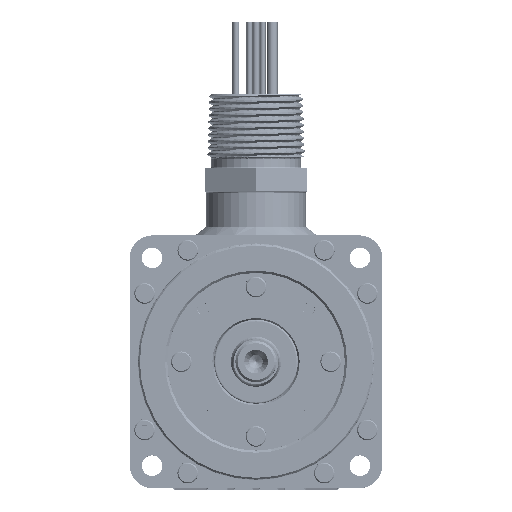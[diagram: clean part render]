
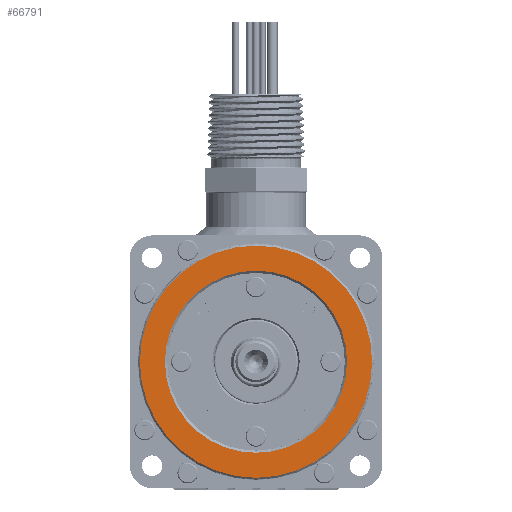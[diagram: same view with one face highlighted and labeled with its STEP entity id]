
A CAD part, top view. The second image highlights one B-rep face of the part: STEP entity #66791.
In plain terms, the highlighted planar face has unit normal (0, 0, 1).
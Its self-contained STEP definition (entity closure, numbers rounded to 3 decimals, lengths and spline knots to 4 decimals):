
#3932 = VERTEX_POINT ( 'NONE', #134331 ) ;
#17612 = ORIENTED_EDGE ( 'NONE', *, *, #156760, .T. ) ;
#19246 = EDGE_LOOP ( 'NONE', ( #189050, #126824 ) ) ;
#20735 = DIRECTION ( 'NONE',  ( 1., 0., 0. ) ) ;
#23095 = CARTESIAN_POINT ( 'NONE',  ( 0., 0., -1.063 ) ) ;
#27422 = CARTESIAN_POINT ( 'NONE',  ( -1.5548, 0., -1.063 ) ) ;
#27563 = FACE_BOUND ( 'NONE', #19246, .T. ) ;
#31839 = AXIS2_PLACEMENT_3D ( 'NONE', #121688, #153735, #134750 ) ;
#36210 = VERTEX_POINT ( 'NONE', #48230 ) ;
#36219 = AXIS2_PLACEMENT_3D ( 'NONE', #197722, #139544, #180691 ) ;
#45549 = FACE_OUTER_BOUND ( 'NONE', #63999, .T. ) ;
#47669 = VERTEX_POINT ( 'NONE', #27422 ) ;
#48230 = CARTESIAN_POINT ( 'NONE',  ( 1.5548, 0., -1.063 ) ) ;
#63508 = EDGE_CURVE ( 'NONE', #36210, #47669, #95070, .T. ) ;
#63999 = EDGE_LOOP ( 'NONE', ( #17612, #133595 ) ) ;
#66791 = ADVANCED_FACE ( 'NONE', ( #45549, #27563 ), #88663, .T. ) ;
#71205 = AXIS2_PLACEMENT_3D ( 'NONE', #83810, #192053, #20735 ) ;
#75938 = EDGE_CURVE ( 'NONE', #101802, #3932, #122585, .T. ) ;
#83810 = CARTESIAN_POINT ( 'NONE',  ( 0., 0., -1.063 ) ) ;
#87296 = DIRECTION ( 'NONE',  ( 0., 0., 1. ) ) ;
#88663 = PLANE ( 'NONE',  #31839 ) ;
#95070 = CIRCLE ( 'NONE', #175458, 1.5548 ) ;
#101802 = VERTEX_POINT ( 'NONE', #181637 ) ;
#121328 = CARTESIAN_POINT ( 'NONE',  ( 0., 0., -1.063 ) ) ;
#121688 = CARTESIAN_POINT ( 'NONE',  ( 0., 1.5748, -1.063 ) ) ;
#122585 = CIRCLE ( 'NONE', #36219, 1.2195 ) ;
#126824 = ORIENTED_EDGE ( 'NONE', *, *, #167006, .T. ) ;
#133595 = ORIENTED_EDGE ( 'NONE', *, *, #63508, .T. ) ;
#134331 = CARTESIAN_POINT ( 'NONE',  ( -1.2195, 0., -1.063 ) ) ;
#134388 = DIRECTION ( 'NONE',  ( 1., 0., 0. ) ) ;
#134750 = DIRECTION ( 'NONE',  ( 1., 0., 0. ) ) ;
#139544 = DIRECTION ( 'NONE',  ( 0., 0., -1. ) ) ;
#139752 = CIRCLE ( 'NONE', #165362, 1.5548 ) ;
#146334 = DIRECTION ( 'NONE',  ( 1., 0., 0. ) ) ;
#151157 = CIRCLE ( 'NONE', #71205, 1.2195 ) ;
#153735 = DIRECTION ( 'NONE',  ( 0., 0., 1. ) ) ;
#156760 = EDGE_CURVE ( 'NONE', #47669, #36210, #139752, .T. ) ;
#165362 = AXIS2_PLACEMENT_3D ( 'NONE', #23095, #176428, #146334 ) ;
#167006 = EDGE_CURVE ( 'NONE', #3932, #101802, #151157, .T. ) ;
#175458 = AXIS2_PLACEMENT_3D ( 'NONE', #121328, #87296, #134388 ) ;
#176428 = DIRECTION ( 'NONE',  ( 0., 0., 1. ) ) ;
#180691 = DIRECTION ( 'NONE',  ( 1., 0., 0. ) ) ;
#181637 = CARTESIAN_POINT ( 'NONE',  ( 1.2195, 0., -1.063 ) ) ;
#189050 = ORIENTED_EDGE ( 'NONE', *, *, #75938, .T. ) ;
#192053 = DIRECTION ( 'NONE',  ( 0., 0., -1. ) ) ;
#197722 = CARTESIAN_POINT ( 'NONE',  ( 0., 0., -1.063 ) ) ;
